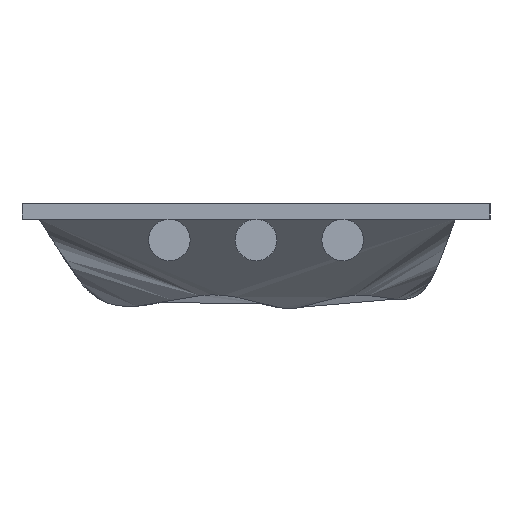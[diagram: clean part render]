
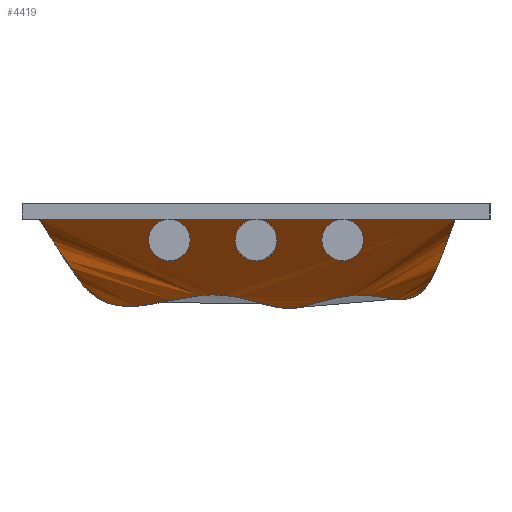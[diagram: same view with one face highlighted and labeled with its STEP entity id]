
A CAD part, left-side view. The second image highlights one B-rep face of the part: STEP entity #4419.
In plain terms, the highlighted free-form (B-spline) face has degree [3, 1] with [13, 2] control points.
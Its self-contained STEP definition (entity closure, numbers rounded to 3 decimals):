
#85=B_SPLINE_SURFACE_WITH_KNOTS('',3,1,((#8865,#8866),(#8867,#8868),(#8869,
#8870),(#8871,#8872),(#8873,#8874),(#8875,#8876),(#8877,#8878),(#8879,#8880),
(#8881,#8882),(#8883,#8884),(#8885,#8886),(#8887,#8888),(#8889,#8890)),
 .SURF_OF_LINEAR_EXTRUSION.,.F.,.F.,.F.,(4,1,1,1,1,1,1,1,1,1,4),(2,2),(0.,
0.225,0.337,0.449,0.562,
0.674,0.73,0.786,0.814,
0.842,0.899),(0.,1.),.UNSPECIFIED.);
#183=B_SPLINE_CURVE_WITH_KNOTS('',3,(#8801,#8802,#8803,#8804,#8805,#8806,
#8807,#8808,#8809,#8810,#8811,#8812,#8813,#8814,#8815,#8816,#8817,#8818,
#8819,#8820,#8821,#8822,#8823,#8824,#8825,#8826,#8827,#8828,#8829,#8830),
 .UNSPECIFIED.,.F.,.F.,(4,1,1,1,1,1,1,1,1,1,1,1,1,1,1,1,1,1,1,1,1,1,1,1,
1,1,1,4),(0.,0.001,0.001,
0.002,0.002,0.003,0.003,
0.004,0.004,0.005,0.005,
0.006,0.006,0.007,0.007,
0.008,0.009,0.01,0.011,
0.011,0.012,0.012,0.013,
0.013,0.014,0.014,0.015,
0.016),.UNSPECIFIED.);
#1383=ORIENTED_EDGE('',*,*,#1986,.T.);
#1384=ORIENTED_EDGE('',*,*,#1983,.F.);
#1983=EDGE_CURVE('',#2391,#2392,#183,.T.);
#1986=EDGE_CURVE('',#2391,#2392,#2895,.T.);
#2391=VERTEX_POINT('',#8800);
#2392=VERTEX_POINT('',#8831);
#2895=LINE('',#8863,#3398);
#3398=VECTOR('',#5638,1000.);
#3687=EDGE_LOOP('',(#1383,#1384));
#3976=FACE_BOUND('',#3687,.T.);
#4419=ADVANCED_FACE('',(#3976),#85,.T.);
#5638=DIRECTION('',(1.,0.,0.));
#8800=CARTESIAN_POINT('',(0.,0.,0.));
#8801=CARTESIAN_POINT('',(0.,0.,0.));
#8802=CARTESIAN_POINT('',(0.071,0.196,-0.26));
#8803=CARTESIAN_POINT('',(0.173,0.461,-0.683));
#8804=CARTESIAN_POINT('',(0.376,1.02,-0.988));
#8805=CARTESIAN_POINT('',(0.547,1.451,-1.199));
#8806=CARTESIAN_POINT('',(0.683,1.716,-1.599));
#8807=CARTESIAN_POINT('',(0.842,2.007,-1.985));
#8808=CARTESIAN_POINT('',(1.241,2.321,-2.149));
#8809=CARTESIAN_POINT('',(1.757,2.325,-2.16));
#8810=CARTESIAN_POINT('',(2.248,2.228,-2.098));
#8811=CARTESIAN_POINT('',(2.747,2.174,-2.065));
#8812=CARTESIAN_POINT('',(3.246,2.222,-2.094));
#8813=CARTESIAN_POINT('',(3.749,2.343,-2.169));
#8814=CARTESIAN_POINT('',(4.225,2.503,-2.277));
#8815=CARTESIAN_POINT('',(4.722,2.601,-2.442));
#8816=CARTESIAN_POINT('',(5.235,2.539,-2.325));
#8817=CARTESIAN_POINT('',(5.874,2.369,-2.176));
#8818=CARTESIAN_POINT('',(6.686,2.126,-2.038));
#8819=CARTESIAN_POINT('',(7.737,2.238,-2.104));
#8820=CARTESIAN_POINT('',(8.572,2.437,-2.227));
#8821=CARTESIAN_POINT('',(9.251,2.528,-2.325));
#8822=CARTESIAN_POINT('',(9.784,2.509,-2.297));
#8823=CARTESIAN_POINT('',(10.271,2.345,-2.158));
#8824=CARTESIAN_POINT('',(10.664,2.011,-1.991));
#8825=CARTESIAN_POINT('',(10.889,1.719,-1.603));
#8826=CARTESIAN_POINT('',(11.081,1.446,-1.195));
#8827=CARTESIAN_POINT('',(11.352,1.023,-0.989));
#8828=CARTESIAN_POINT('',(11.699,0.483,-0.702));
#8829=CARTESIAN_POINT('',(11.876,0.2,-0.265));
#8830=CARTESIAN_POINT('',(12.,0.,0.));
#8831=CARTESIAN_POINT('',(12.,0.,0.));
#8863=CARTESIAN_POINT('',(0.,0.,0.));
#8865=CARTESIAN_POINT('',(12.072,0.,0.));
#8866=CARTESIAN_POINT('',(-0.072,0.,0.));
#8867=CARTESIAN_POINT('',(12.072,0.201,-0.266));
#8868=CARTESIAN_POINT('',(-0.072,0.201,-0.266));
#8869=CARTESIAN_POINT('',(12.072,0.44,-0.647));
#8870=CARTESIAN_POINT('',(-0.072,0.44,-0.647));
#8871=CARTESIAN_POINT('',(12.072,0.951,-0.959));
#8872=CARTESIAN_POINT('',(-0.072,0.951,-0.959));
#8873=CARTESIAN_POINT('',(12.072,1.389,-1.157));
#8874=CARTESIAN_POINT('',(-0.072,1.389,-1.157));
#8875=CARTESIAN_POINT('',(12.072,1.681,-1.519));
#8876=CARTESIAN_POINT('',(-0.072,1.681,-1.519));
#8877=CARTESIAN_POINT('',(12.072,1.893,-1.872));
#8878=CARTESIAN_POINT('',(-0.072,1.893,-1.872));
#8879=CARTESIAN_POINT('',(12.072,2.174,-2.069));
#8880=CARTESIAN_POINT('',(-0.072,2.174,-2.069));
#8881=CARTESIAN_POINT('',(12.072,2.355,-2.173));
#8882=CARTESIAN_POINT('',(-0.072,2.355,-2.173));
#8883=CARTESIAN_POINT('',(12.072,2.483,-2.273));
#8884=CARTESIAN_POINT('',(-0.072,2.483,-2.273));
#8885=CARTESIAN_POINT('',(12.072,2.553,-2.353));
#8886=CARTESIAN_POINT('',(-0.072,2.553,-2.353));
#8887=CARTESIAN_POINT('',(12.072,2.57,-2.384));
#8888=CARTESIAN_POINT('',(-0.072,2.57,-2.384));
#8889=CARTESIAN_POINT('',(12.072,2.584,-2.414));
#8890=CARTESIAN_POINT('',(-0.072,2.584,-2.414));
